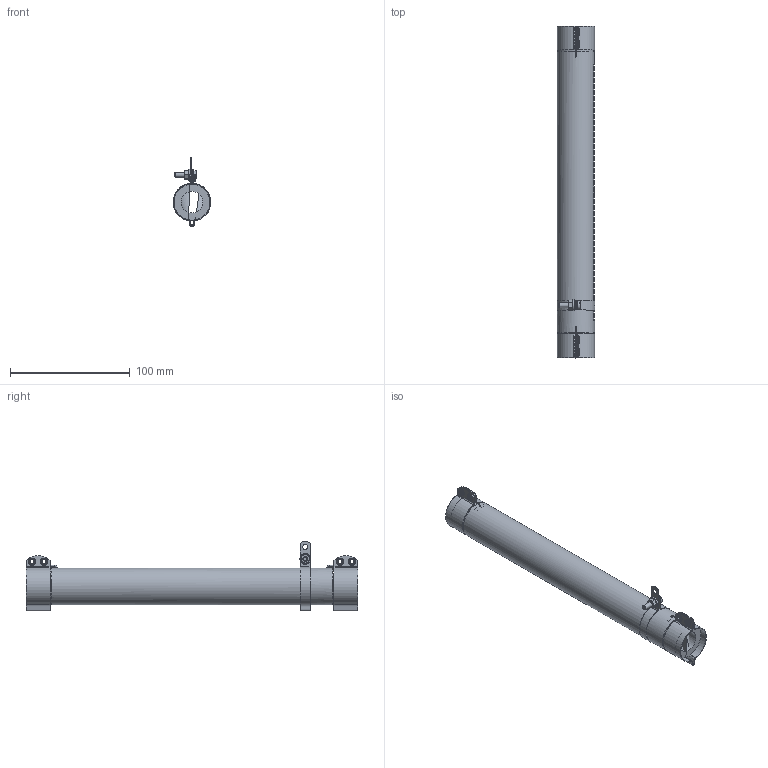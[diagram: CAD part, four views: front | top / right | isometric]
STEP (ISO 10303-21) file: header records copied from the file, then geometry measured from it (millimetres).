
FILE_DESCRIPTION(/* description */ (''),/* implementation_level */ '2;1');
FILE_NAME(/* name */ 'C:\_Vault\Dati\CATALOGO\RC-RS\RC-RS R TF\RSR TF 260.stp',/* time_stamp */ '2014-03-21T09:19:24+01:00',/* author */ ('stefano'),/* organization */ (''),/* preprocessor_version */ 'ST-DEVELOPER v15.2',/* originating_system */ 'Autodesk Inventor 2014',/* authorisation */ '');
FILE_SCHEMA (('AUTOMOTIVE_DESIGN { 1 0 10303 214 3 1 1 }'));
Length unit declared in the file: millimetre
Products named in the file (1): RSR TF 260
Bounding box: 31.57 x 277 x 58.36 mm (x, y, z)
Volume: 126806.2 mm3; surface area: 50272.1 mm2
Topology: 1 solids, 6 shells, 814 faces, 2318 edges, 1535 vertices
Faces by surface type: plane 588, cylinder 177, torus 20, cone 17, bspline 12
Full cylindrical faces by diameter (mm): 0.4 x2, 0.8 x4, 3.2 x4, 3.571 x1, 4 x2, 4.2 x11, 4.3 x1, 6 x8, 9 x1, 18 x1, 30 x3, 31 x1
Entity records: 27869 total; most frequent: CARTESIAN_POINT 5532, DIRECTION 4574, ORIENTED_EDGE 4476, EDGE_CURVE 2238, AXIS2_PLACEMENT_3D 1608, VERTEX_POINT 1516, LINE 1358, VECTOR 1358
